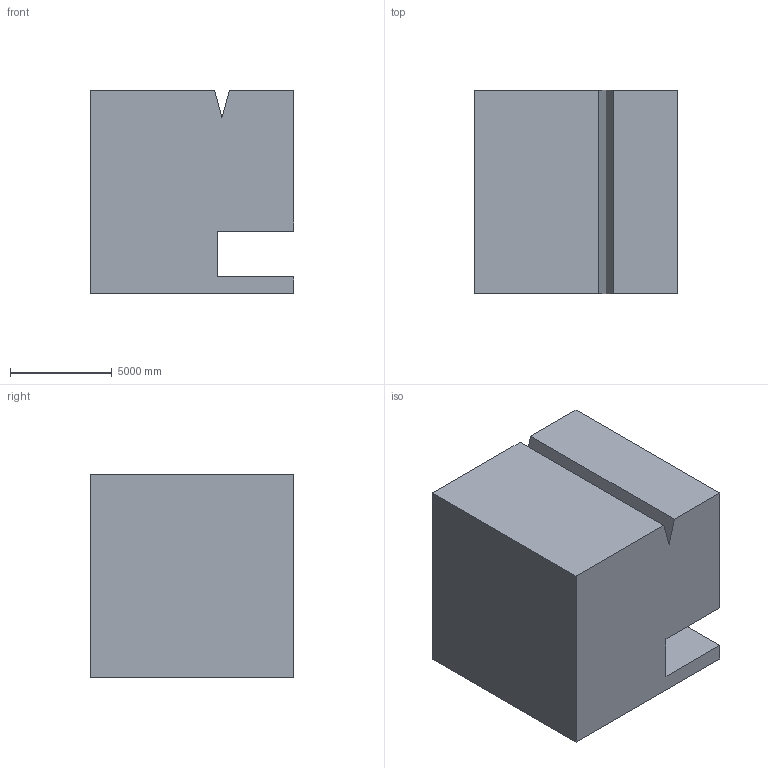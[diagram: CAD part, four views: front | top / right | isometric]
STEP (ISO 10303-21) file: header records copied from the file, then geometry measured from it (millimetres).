
FILE_DESCRIPTION (( 'STEP AP203' ), '1' );
FILE_NAME ('1240.STEP', '2022-08-18T13:20:40', ( 'user' ), ( '' ), 'SwSTEP 2.0', 'SolidWorks 2021', '' );
FILE_SCHEMA (( 'CONFIG_CONTROL_DESIGN' ));
Length unit declared in the file: centimetre
Products named in the file (1): 1240
Bounding box: 10000 x 10000 x 10000 mm (x, y, z)
Volume: 821562735422.6 mm3; surface area: 817157879.8 mm2
Topology: 1 solids, 1 shells, 19 faces, 45 edges, 30 vertices
Faces by surface type: plane 15, cylinder 4
Entity records: 624 total; most frequent: CARTESIAN_POINT 95, DIRECTION 93, ORIENTED_EDGE 90, EDGE_CURVE 45, VECTOR 37, LINE 37, VERTEX_POINT 30, AXIS2_PLACEMENT_3D 28
